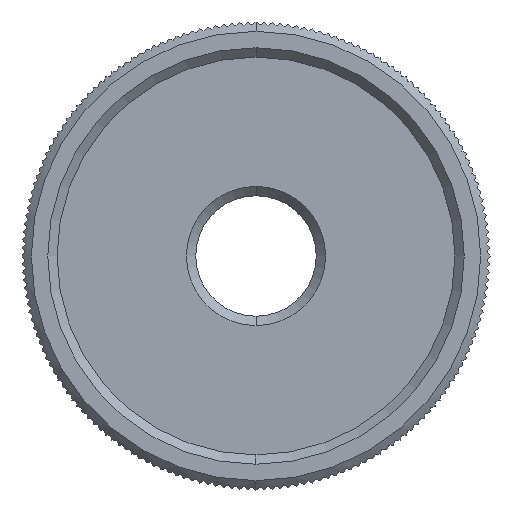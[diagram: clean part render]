
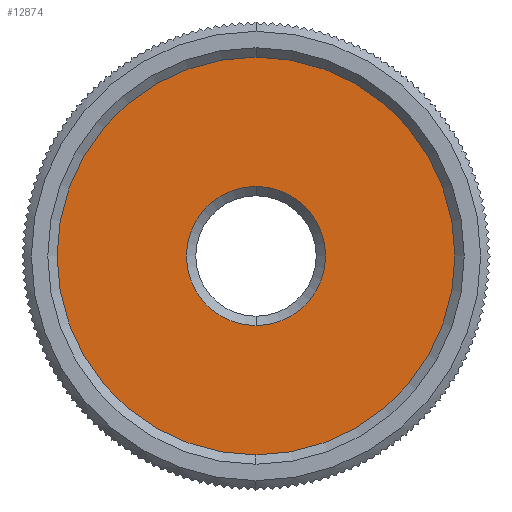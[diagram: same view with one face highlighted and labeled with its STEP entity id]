
A CAD part, left-side view. The second image highlights one B-rep face of the part: STEP entity #12874.
In plain terms, the highlighted planar face has unit normal (-1, 0, 0).
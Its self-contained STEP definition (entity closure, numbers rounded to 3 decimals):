
#2837 = CARTESIAN_POINT ( 'NONE',  ( -6., 0., 5.95 ) ) ;
#2869 = CARTESIAN_POINT ( 'NONE',  ( -6., 0., -17. ) ) ;
#2877 = DIRECTION ( 'NONE',  ( 0., 0., 1. ) ) ;
#2878 = DIRECTION ( 'NONE',  ( 1., 0., 0. ) ) ;
#2879 = AXIS2_PLACEMENT_3D ( 'NONE', #2884, #2878, #2877 ) ;
#2880 = CIRCLE ( 'NONE', #2879, 5.95 ) ;
#2884 = CARTESIAN_POINT ( 'NONE',  ( -6., 0., 0. ) ) ;
#2891 = DIRECTION ( 'NONE',  ( 0., 0., 1. ) ) ;
#2892 = DIRECTION ( 'NONE',  ( -1., 0., 0. ) ) ;
#2893 = CARTESIAN_POINT ( 'NONE',  ( -6., 0., 0. ) ) ;
#2894 = AXIS2_PLACEMENT_3D ( 'NONE', #2893, #2892, #2891 ) ;
#2895 = CIRCLE ( 'NONE', #2894, 17. ) ;
#2937 = CARTESIAN_POINT ( 'NONE',  ( -6., 0., 17. ) ) ;
#2939 = CARTESIAN_POINT ( 'NONE',  ( -6., 0., -5.95 ) ) ;
#8331 = DIRECTION ( 'NONE',  ( 0., 0., 1. ) ) ;
#8332 = DIRECTION ( 'NONE',  ( -1., 0., 0. ) ) ;
#8333 = CARTESIAN_POINT ( 'NONE',  ( -6., 0., 0. ) ) ;
#8334 = AXIS2_PLACEMENT_3D ( 'NONE', #8333, #8332, #8331 ) ;
#8335 = CIRCLE ( 'NONE', #8334, 17. ) ;
#8365 = DIRECTION ( 'NONE',  ( 0., 0., 1. ) ) ;
#8366 = DIRECTION ( 'NONE',  ( 1., 0., 0. ) ) ;
#8367 = CARTESIAN_POINT ( 'NONE',  ( -6., 0., 0. ) ) ;
#8368 = AXIS2_PLACEMENT_3D ( 'NONE', #8367, #8366, #8365 ) ;
#8369 = DIRECTION ( 'NONE',  ( 0., 0., 1. ) ) ;
#8370 = DIRECTION ( 'NONE',  ( -1., 0., 0. ) ) ;
#8371 = CARTESIAN_POINT ( 'NONE',  ( -6., 0., 0. ) ) ;
#8372 = CIRCLE ( 'NONE', #8368, 5.95 ) ;
#8373 = AXIS2_PLACEMENT_3D ( 'NONE', #8371, #8370, #8369 ) ;
#8374 = PLANE ( 'NONE',  #8373 ) ;
#8375 = FACE_OUTER_BOUND ( 'NONE', #12936, .T. ) ;
#8379 = FACE_BOUND ( 'NONE', #12875, .T. ) ;
#9835 = VERTEX_POINT ( 'NONE', #2837 ) ;
#9842 = EDGE_CURVE ( 'NONE', #9835, #9861, #2880, .T. ) ;
#9850 = VERTEX_POINT ( 'NONE', #2869 ) ;
#9857 = EDGE_CURVE ( 'NONE', #9850, #9864, #2895, .T. ) ;
#9861 = VERTEX_POINT ( 'NONE', #2939 ) ;
#9864 = VERTEX_POINT ( 'NONE', #2937 ) ;
#12858 = EDGE_CURVE ( 'NONE', #9864, #9850, #8335, .T. ) ;
#12859 = ORIENTED_EDGE ( 'NONE', *, *, #9857, .T. ) ;
#12874 = ADVANCED_FACE ( 'NONE', ( #8379, #8375 ), #8374, .T. ) ;
#12875 = EDGE_LOOP ( 'NONE', ( #12876, #12877 ) ) ;
#12876 = ORIENTED_EDGE ( 'NONE', *, *, #9842, .T. ) ;
#12877 = ORIENTED_EDGE ( 'NONE', *, *, #12878, .T. ) ;
#12878 = EDGE_CURVE ( 'NONE', #9861, #9835, #8372, .T. ) ;
#12936 = EDGE_LOOP ( 'NONE', ( #12937, #12859 ) ) ;
#12937 = ORIENTED_EDGE ( 'NONE', *, *, #12858, .T. ) ;
